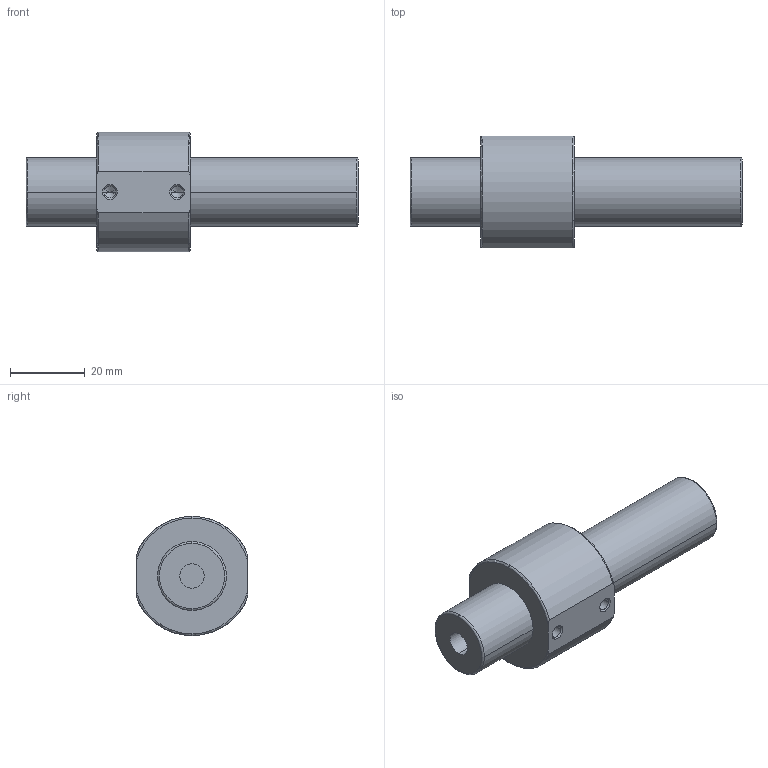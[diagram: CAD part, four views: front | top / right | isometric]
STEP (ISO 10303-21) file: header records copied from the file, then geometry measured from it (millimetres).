
FILE_DESCRIPTION (( 'STEP AP214' ), '1' );
FILE_NAME ('MT23.STEP', '2025-01-07T20:21:14', ( '' ), ( '' ), 'SwSTEP 2.0', 'SolidWorks 2018', '' );
FILE_SCHEMA (( 'AUTOMOTIVE_DESIGN' ));
Length unit declared in the file: millimetre
Products named in the file (1): MT23
Bounding box: 89 x 30 x 32 mm (x, y, z)
Volume: 34977.8 mm3; surface area: 8917.3 mm2
Topology: 1 solids, 1 shells, 57 faces, 130 edges, 80 vertices
Faces by surface type: cylinder 20, cone 14, torus 12, plane 11
Entity records: 1744 total; most frequent: CARTESIAN_POINT 388, DIRECTION 312, ORIENTED_EDGE 252, AXIS2_PLACEMENT_3D 136, EDGE_CURVE 126, VERTEX_POINT 80, CIRCLE 78, EDGE_LOOP 66
